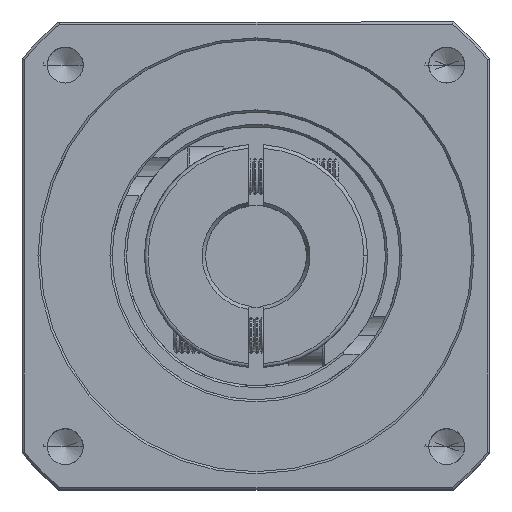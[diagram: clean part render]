
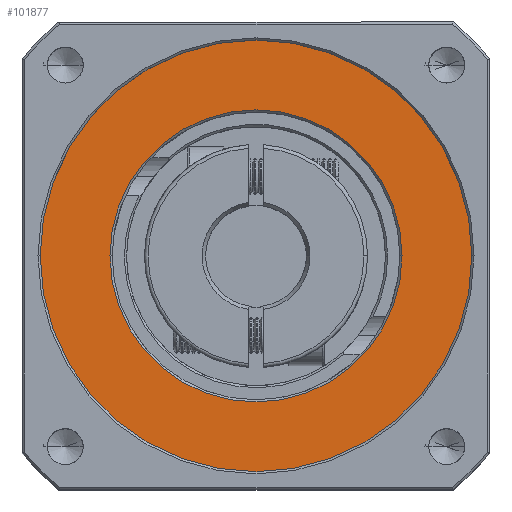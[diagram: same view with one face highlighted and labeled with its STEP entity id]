
A CAD part, top view. The second image highlights one B-rep face of the part: STEP entity #101877.
In plain terms, the highlighted planar face has unit normal (0, 0, 1).
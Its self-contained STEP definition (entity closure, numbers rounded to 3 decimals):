
#2021 = CIRCLE ( 'NONE', #2328, 30. ) ;
#2328 = AXIS2_PLACEMENT_3D ( 'NONE', #38656, #95907, #46901 ) ;
#17723 = AXIS2_PLACEMENT_3D ( 'NONE', #37798, #95045, #72717 ) ;
#20404 = VERTEX_POINT ( 'NONE', #68369 ) ;
#30587 = EDGE_CURVE ( 'NONE', #60993, #54596, #87080, .T. ) ;
#32594 = CARTESIAN_POINT ( 'NONE',  ( -22.003, 26.852, -14.843 ) ) ;
#37172 = VERTEX_POINT ( 'NONE', #37834 ) ;
#37798 = CARTESIAN_POINT ( 'NONE',  ( -42.303, 26.852, -14.843 ) ) ;
#37834 = CARTESIAN_POINT ( 'NONE',  ( -72.303, 26.852, -14.843 ) ) ;
#38656 = CARTESIAN_POINT ( 'NONE',  ( -42.303, 26.852, -14.843 ) ) ;
#40602 = EDGE_CURVE ( 'NONE', #37172, #20404, #97911, .T. ) ;
#40804 = CARTESIAN_POINT ( 'NONE',  ( -42.303, 26.852, -14.843 ) ) ;
#45675 = EDGE_CURVE ( 'NONE', #20404, #37172, #2021, .T. ) ;
#46901 = DIRECTION ( 'NONE',  ( 1., 0., 0. ) ) ;
#47050 = CARTESIAN_POINT ( 'NONE',  ( -42.303, 26.852, -14.843 ) ) ;
#48694 = DIRECTION ( 'NONE',  ( 0., 0., -1. ) ) ;
#49049 = DIRECTION ( 'NONE',  ( 1., 0., 0. ) ) ;
#49150 = EDGE_LOOP ( 'NONE', ( #51314, #57876 ) ) ;
#51314 = ORIENTED_EDGE ( 'NONE', *, *, #80050, .T. ) ;
#53944 = PLANE ( 'NONE',  #17723 ) ;
#54596 = VERTEX_POINT ( 'NONE', #32594 ) ;
#55287 = DIRECTION ( 'NONE',  ( 1., 0., 0. ) ) ;
#57876 = ORIENTED_EDGE ( 'NONE', *, *, #30587, .T. ) ;
#59804 = AXIS2_PLACEMENT_3D ( 'NONE', #47050, #104370, #55287 ) ;
#60993 = VERTEX_POINT ( 'NONE', #106628 ) ;
#64377 = ORIENTED_EDGE ( 'NONE', *, *, #45675, .T. ) ;
#68369 = CARTESIAN_POINT ( 'NONE',  ( -12.303, 26.852, -14.843 ) ) ;
#71149 = ORIENTED_EDGE ( 'NONE', *, *, #40602, .T. ) ;
#71490 = FACE_BOUND ( 'NONE', #49150, .T. ) ;
#72717 = DIRECTION ( 'NONE',  ( 1., 0., 0. ) ) ;
#77292 = CIRCLE ( 'NONE', #78685, 20.3 ) ;
#78685 = AXIS2_PLACEMENT_3D ( 'NONE', #97702, #48694, #106033 ) ;
#80050 = EDGE_CURVE ( 'NONE', #54596, #60993, #77292, .T. ) ;
#84318 = EDGE_LOOP ( 'NONE', ( #64377, #71149 ) ) ;
#87080 = CIRCLE ( 'NONE', #59804, 20.3 ) ;
#93194 = FACE_OUTER_BOUND ( 'NONE', #84318, .T. ) ;
#95045 = DIRECTION ( 'NONE',  ( 0., 0., 1. ) ) ;
#95907 = DIRECTION ( 'NONE',  ( 0., 0., 1. ) ) ;
#97702 = CARTESIAN_POINT ( 'NONE',  ( -42.303, 26.852, -14.843 ) ) ;
#97911 = CIRCLE ( 'NONE', #98884, 30. ) ;
#98088 = DIRECTION ( 'NONE',  ( 0., 0., 1. ) ) ;
#98884 = AXIS2_PLACEMENT_3D ( 'NONE', #40804, #98088, #49049 ) ;
#101877 = ADVANCED_FACE ( 'NONE', ( #71490, #93194 ), #53944, .T. ) ;
#104370 = DIRECTION ( 'NONE',  ( 0., 0., -1. ) ) ;
#106033 = DIRECTION ( 'NONE',  ( 1., 0., 0. ) ) ;
#106628 = CARTESIAN_POINT ( 'NONE',  ( -62.603, 26.852, -14.843 ) ) ;
